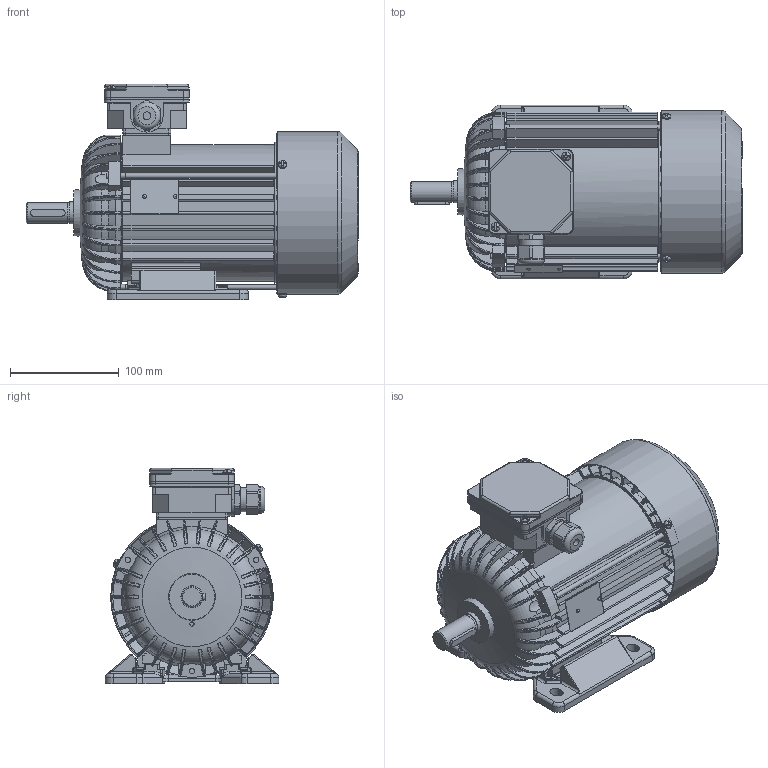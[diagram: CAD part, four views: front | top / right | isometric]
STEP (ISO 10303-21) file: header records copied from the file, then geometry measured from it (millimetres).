
FILE_DESCRIPTION( ( 'Unknown' ), '1' );
FILE_NAME( 'G:/Poczta Tk-1/STP/w.m.80/Sh80/Sh80x-.C.stp', 'Unknown', ( 'K. Szlosek' ), ( 'BESEL S.A.' ), 'PSStep 17.0.49', 'Unknown', ' ' );
FILE_SCHEMA( ( 'AUTOMOTIVE_DESIGN { 1 0 10303 214 1 1 1 1 }' ) );
Length unit declared in the file: millimetre
Products named in the file (30): skrznka zaciskowa trójfazowa ; K4-2820 Uszczelka nr 2 Sh71,80; Dławnica M20x1,5; K2-0859 Podstawa skrzynki 6-cio zaciskowej; K2-0860 Pokrywka skrzynki zaciskowej; Assem1; K1-1257 Kadłub S(E,M)h80-C i D; K3-7039 wał standard Sh80-C; Wkręt samogwintujący M4x16; Wkręt samogwintujący M4x10; K2-1715 Przewietrznik; Wpust A6x6x32; Nitokołek A 2x6; K2-2007 Tarcza łożyskowa N S(E,M)h80-; K4-4489 Osłona przewietrznika Sh80,90-A,C; K4-2320 Uszczelka nr 1 Sh71,80; K1-0437 Łapa Sh80-.. ; K2-2027 Tarcza łożyskowa P S(E,M)h80-.A,C; Łożysko 6204; Śruba ściągająca E_M5x168; Tabliczka znamionowa 32x44
Assembly tree (45 placements, depth 3):
  Assem1
    K1-1257 Kadłub S(E,M)h80-C i D
    K3-7039 wał standard Sh80-C
    Wkręt samogwintujący M4x16  x2
    Wkręt samogwintujący M4x10  x3
    K2-1715 Przewietrznik
    Wpust A6x6x32
    Nitokołek A 2x6  x2
    K2-2007 Tarcza łożyskowa N S(E,M)h80-
    K4-4489 Osłona przewietrznika Sh80,90-A,C
    K4-2320 Uszczelka nr 1 Sh71,80
    K1-0437 Łapa Sh80-.. 
    K2-2027 Tarcza łożyskowa P S(E,M)h80-.A,C
    Łożysko 6204  x2
    Łożysko 6204  x2
    Łożysko 6204  x2
    Łożysko 6204  x2
    Łożysko 6204  x2
    Łożysko 6204  x2
    Łożysko 6204  x2
    Łożysko 6204  x2
    Łożysko 6204  x2
    Łożysko 6204  x2
    Śruba ściągająca E_M5x168  x3
    Tabliczka znamionowa 32x44
    skrznka zaciskowa trójfazowa 
      K4-2820 Uszczelka nr 2 Sh71,80
      Dławnica M20x1,5
      K2-0859 Podstawa skrzynki 6-cio zaciskowej
      K2-0860 Pokrywka skrzynki zaciskowej
Bounding box: 305.8 x 160 x 198.5 mm (x, y, z)
Volume: 1004991.5 mm3; surface area: 602344.3 mm2
Topology: 44 solids, 60 shells, 2969 faces, 8180 edges, 5257 vertices
Faces by surface type: plane 1389, cylinder 963, bspline 209, torus 207, cone 165, sphere 36
Full cylindrical faces by diameter (mm): 2 x2, 2.4 x2, 3 x1, 3.7 x11, 4 x6, 4.2 x3, 4.5 x1, 4.6 x3, 4.8 x4, 5 x7, 5.5 x3, 6.5 x4, 7 x1, 8 x9, 18.376 x1, 18.38 x1, 18.6 x1, 19 x1, 19.3 x1, 19.5 x2, 19.9 x1, 20 x5, 20.3 x2, 20.4 x4, 22.3 x1, 25 x1, 25.5 x1, 25.65 x1, 26 x3, 26.05 x1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
Entity records: 162159 total; most frequent: CARTESIAN_POINT 71270, ORIENTED_EDGE 14828, DIRECTION 13930, EDGE_CURVE 7414, AXIS2_PLACEMENT_3D 5142, VERTEX_POINT 4927, LINE 3646, VECTOR 3646
